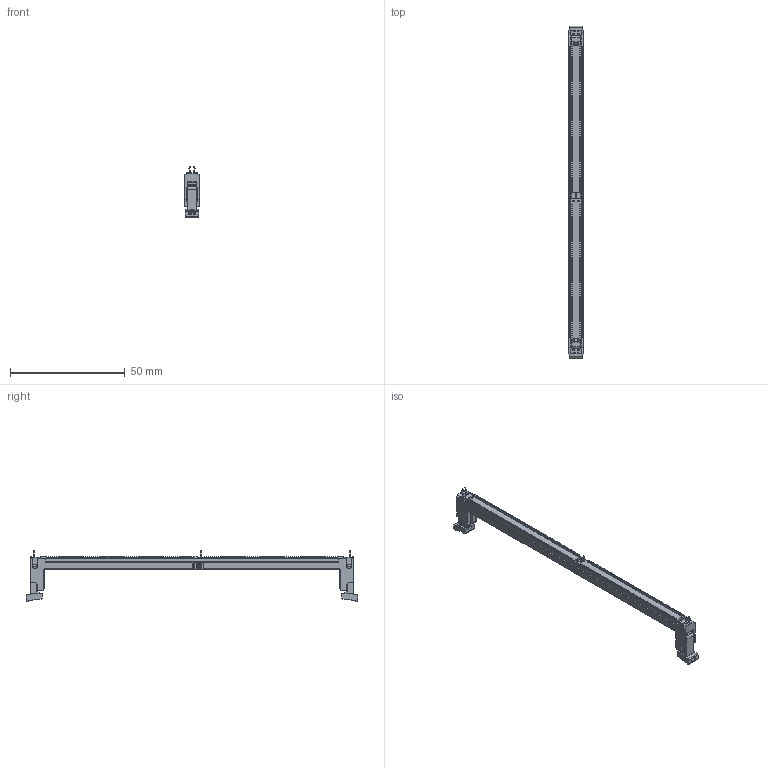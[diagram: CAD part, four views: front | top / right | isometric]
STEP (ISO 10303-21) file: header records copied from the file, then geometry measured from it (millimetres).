
FILE_DESCRIPTION((''),'2;1');
FILE_NAME('DDR5_T61_SMT_CONN_202_SW0005','2026-07-10T17:14:56',('12824382'),(''),'CREO PARAMETRIC BY PTC INC, 2019471','CREO PARAMETRIC BY PTC INC, 2019471','');
FILE_SCHEMA(('CONFIG_CONTROL_DESIGN'));
Products named in the file (1): DDR5_T61_SMT_CONN_202_SW0005
Bounding box: 6.1 x 144.6 x 22.17 mm (x, y, z)
Volume: 4073.4 mm3; surface area: 6290.3 mm2
Topology: 1 solids, 1 shells, 6552 faces, 17169 edges, 10905 vertices
Faces by surface type: plane 4739, cylinder 1639, bspline 150, torus 20, sphere 4
Entity records: 205610 total; most frequent: CARTESIAN_POINT 43387, ORIENTED_EDGE 34322, DIRECTION 32573, EDGE_CURVE 17161, VECTOR 11609, LINE 11609, VERTEX_POINT 10905, AXIS2_PLACEMENT_3D 10482
